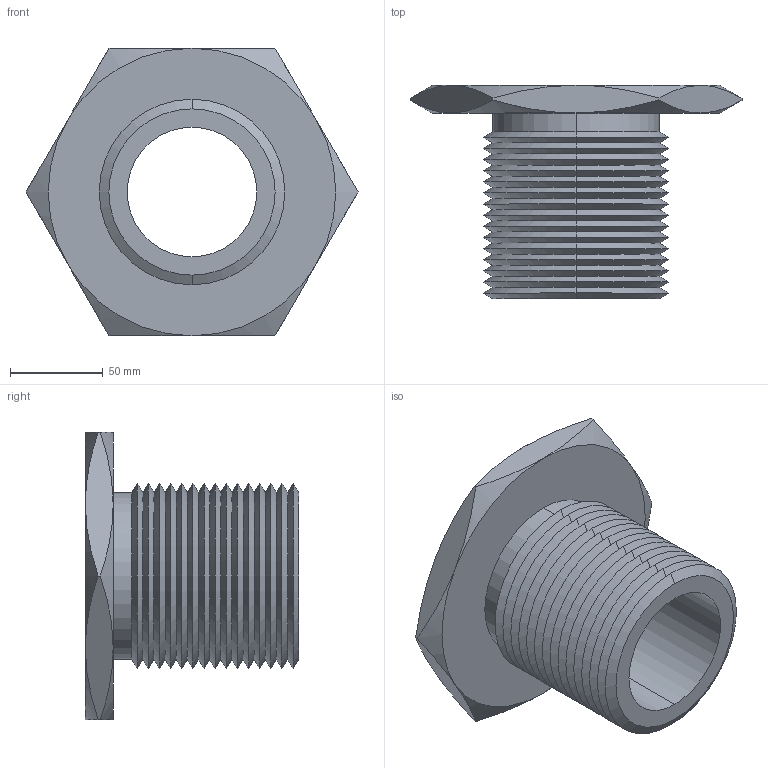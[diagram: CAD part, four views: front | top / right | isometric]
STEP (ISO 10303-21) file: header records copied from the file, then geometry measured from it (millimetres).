
FILE_DESCRIPTION (( 'STEP AP203' ), '1' );
FILE_NAME ('63302.W0100_2,75 UNC-4.step', '2013-12-08T11:34:29', ( 'User' ), ( '' ), 'SwSTEP 2.0', 'SolidWorks 2009', '' );
FILE_SCHEMA (( 'CONFIG_CONTROL_DESIGN' ));
Length unit declared in the file: millimetre
Products named in the file (1): 63302.W0100_2,75 UNC-4
Bounding box: 178.98 x 115 x 155 mm (x, y, z)
Volume: 557648.7 mm3; surface area: 120949.5 mm2
Topology: 1 solids, 1 shells, 87 faces, 178 edges, 94 vertices
Faces by surface type: cone 74, plane 9, cylinder 4
Entity records: 2479 total; most frequent: CARTESIAN_POINT 584, DIRECTION 412, ORIENTED_EDGE 356, EDGE_CURVE 178, AXIS2_PLACEMENT_3D 170, VERTEX_POINT 94, EDGE_LOOP 90, ADVANCED_FACE 87
